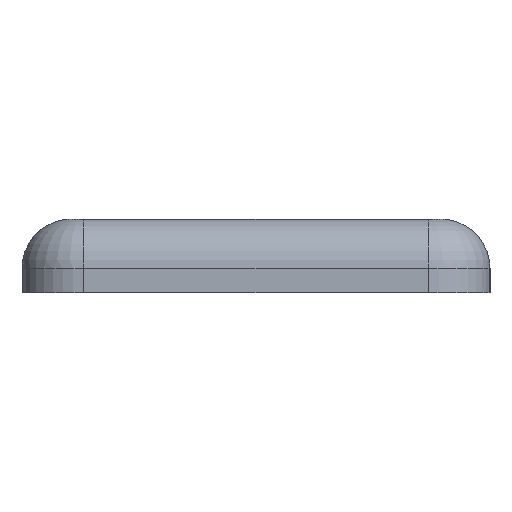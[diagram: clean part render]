
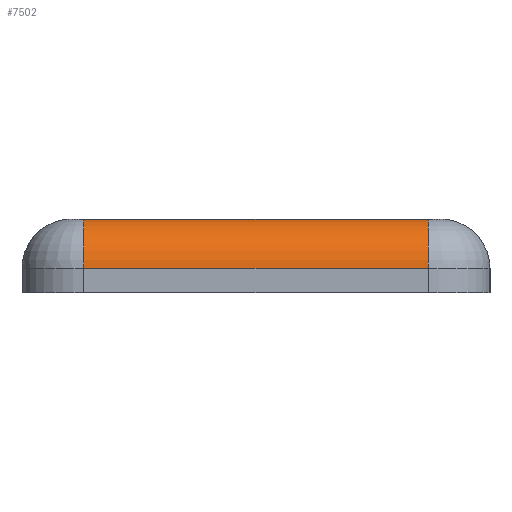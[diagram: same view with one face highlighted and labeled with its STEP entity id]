
A CAD part, left-side view. The second image highlights one B-rep face of the part: STEP entity #7502.
In plain terms, the highlighted cylindrical face has radius 2 mm (diameter 4 mm), a partial arc.
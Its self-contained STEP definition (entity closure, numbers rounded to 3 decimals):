
#182 = DIRECTION ( 'NONE',  ( 0., 1., 0. ) ) ;
#220 = ORIENTED_EDGE ( 'NONE', *, *, #876, .T. ) ;
#876 = EDGE_CURVE ( 'NONE', #10278, #6180, #2744, .T. ) ;
#992 = DIRECTION ( 'NONE',  ( 0., -1., 0. ) ) ;
#1044 = CARTESIAN_POINT ( 'NONE',  ( -32., 0., 3. ) ) ;
#1070 = CARTESIAN_POINT ( 'NONE',  ( -32., 0., 1. ) ) ;
#1074 = CIRCLE ( 'NONE', #5896, 2. ) ;
#1116 = CYLINDRICAL_SURFACE ( 'NONE', #3667, 2. ) ;
#1249 = AXIS2_PLACEMENT_3D ( 'NONE', #4378, #182, #8393 ) ;
#1303 = ORIENTED_EDGE ( 'NONE', *, *, #2720, .F. ) ;
#1526 = CARTESIAN_POINT ( 'NONE',  ( -32., 7., 3. ) ) ;
#2147 = ORIENTED_EDGE ( 'NONE', *, *, #9063, .F. ) ;
#2284 = CARTESIAN_POINT ( 'NONE',  ( -34., -7., 1. ) ) ;
#2439 = CARTESIAN_POINT ( 'NONE',  ( -32., -7., 3. ) ) ;
#2720 = EDGE_CURVE ( 'NONE', #7597, #8930, #1074, .T. ) ;
#2744 = CIRCLE ( 'NONE', #1249, 2. ) ;
#2841 = VECTOR ( 'NONE', #3099, 1000. ) ;
#3099 = DIRECTION ( 'NONE',  ( 0., 1., 0. ) ) ;
#3615 = EDGE_LOOP ( 'NONE', ( #220, #2147, #1303, #4060 ) ) ;
#3667 = AXIS2_PLACEMENT_3D ( 'NONE', #1070, #9813, #6645 ) ;
#3717 = CARTESIAN_POINT ( 'NONE',  ( -34., 7., 1. ) ) ;
#4060 = ORIENTED_EDGE ( 'NONE', *, *, #6753, .F. ) ;
#4378 = CARTESIAN_POINT ( 'NONE',  ( -32., -7., 1. ) ) ;
#5246 = DIRECTION ( 'NONE',  ( -1., 0., 0. ) ) ;
#5896 = AXIS2_PLACEMENT_3D ( 'NONE', #6705, #5918, #5246 ) ;
#5918 = DIRECTION ( 'NONE',  ( 0., 1., 0. ) ) ;
#6180 = VERTEX_POINT ( 'NONE', #2439 ) ;
#6645 = DIRECTION ( 'NONE',  ( 1., 0., 0. ) ) ;
#6705 = CARTESIAN_POINT ( 'NONE',  ( -32., 7., 1. ) ) ;
#6753 = EDGE_CURVE ( 'NONE', #10278, #7597, #7020, .T. ) ;
#7020 = LINE ( 'NONE', #10128, #2841 ) ;
#7502 = ADVANCED_FACE ( 'NONE', ( #9039 ), #1116, .T. ) ;
#7597 = VERTEX_POINT ( 'NONE', #3717 ) ;
#8393 = DIRECTION ( 'NONE',  ( -1., 0., 0. ) ) ;
#8930 = VERTEX_POINT ( 'NONE', #1526 ) ;
#8965 = LINE ( 'NONE', #1044, #9163 ) ;
#9039 = FACE_OUTER_BOUND ( 'NONE', #3615, .T. ) ;
#9063 = EDGE_CURVE ( 'NONE', #8930, #6180, #8965, .T. ) ;
#9163 = VECTOR ( 'NONE', #992, 1000. ) ;
#9813 = DIRECTION ( 'NONE',  ( 0., -1., 0. ) ) ;
#10128 = CARTESIAN_POINT ( 'NONE',  ( -34., 9.5, 1. ) ) ;
#10278 = VERTEX_POINT ( 'NONE', #2284 ) ;
